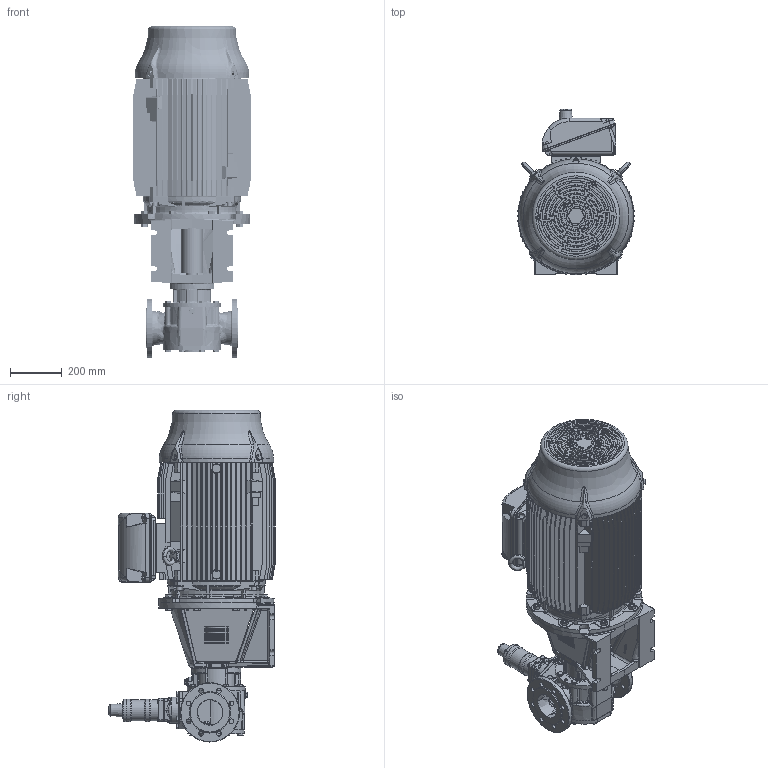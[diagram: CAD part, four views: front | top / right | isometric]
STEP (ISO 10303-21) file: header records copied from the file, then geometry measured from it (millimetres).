
FILE_DESCRIPTION(/* description */ (''),/* implementation_level */ '2;1');
FILE_NAME(/* name */ 'C:\V\JPP\Designs\GEAR PUMPS\PRODUCT ENGINEERING\EUROPE\TG BLOC\TG BLOC_86-100_G2_O_RV1-_225-STEP.stp',/* time_stamp */ '2021-03-19T14:33:53+01:00',/* author */ ('A77THR'),/* organization */ (''),/* preprocessor_version */ 'ST-DEVELOPER v18.1',/* originating_system */ 'Autodesk Inventor 2020',/* authorisation */ '');
FILE_SCHEMA (('AUTOMOTIVE_DESIGN { 1 0 10303 214 3 1 1 }'));
Length unit declared in the file: millimetre
Products named in the file (1): TG BLOC_86-100_G2_O_RV1-_225
Bounding box: 455 x 644.5 x 1287.96 mm (x, y, z)
Volume: 122070830.6 mm3; surface area: 4785894.1 mm2
Topology: 1 solids, 1 shells, 5039 faces, 13310 edges, 8466 vertices
Faces by surface type: plane 2149, cone 1005, bspline 965, cylinder 717, torus 153, sphere 50
Full cylindrical faces by diameter (mm): 4.5 x4, 4.917 x4, 5.459 x4, 6 x4, 6.3 x1, 6.647 x1, 7 x4, 7.323 x4, 8 x4, 8.7 x4, 9 x6, 9.188 x8, 10 x16, 10.106 x7, 10.2 x2, 11 x8, 11.053 x4, 11.4 x4, 11.445 x2, 12 x4, 13 x1, 13.157 x2, 13.2 x2, 13.835 x8, 14 x8, 14.8 x4, 15.011 x2, 15.4 x8, 17.2 x20, 17.5 x1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
Entity records: 222800 total; most frequent: CARTESIAN_POINT 100799, ORIENTED_EDGE 26424, DIRECTION 22193, EDGE_CURVE 13212, AXIS2_PLACEMENT_3D 8476, VERTEX_POINT 8466, EDGE_LOOP 5494, LINE 5241
